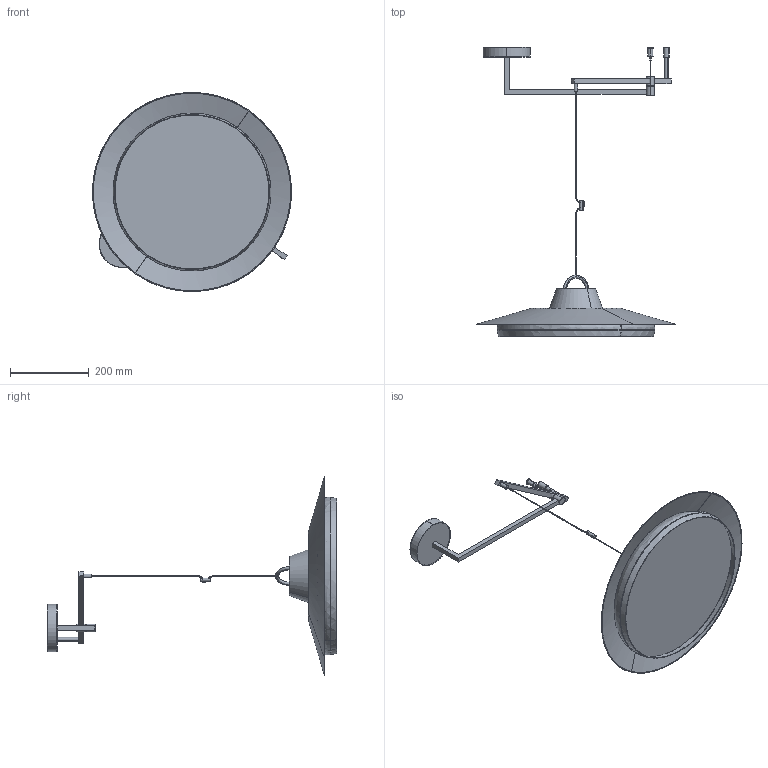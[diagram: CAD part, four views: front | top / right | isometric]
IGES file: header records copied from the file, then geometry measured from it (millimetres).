
Start section: SolidWorks IGES file using analytic representation for surfaces
Global section: file name: F:\燠隴矨\3D\2025-11\Morvia Swing Arm Pendant Lamp-D50cm.IGS,15; native system: HSolidWorks 2022; preprocessor: SolidWorks 2022; author: MyPC; date: 251113.111046; units: millimetre
Bounding box: 504.47 x 733.85 x 504.47 mm (x, y, z)
Surface area: 929178.5 mm2 (no closed solid volume)
Topology: 0 solids, 0 shells, 100 faces, 1788 edges, 1788 vertices
Faces by surface type: bspline 56, revolution 44
